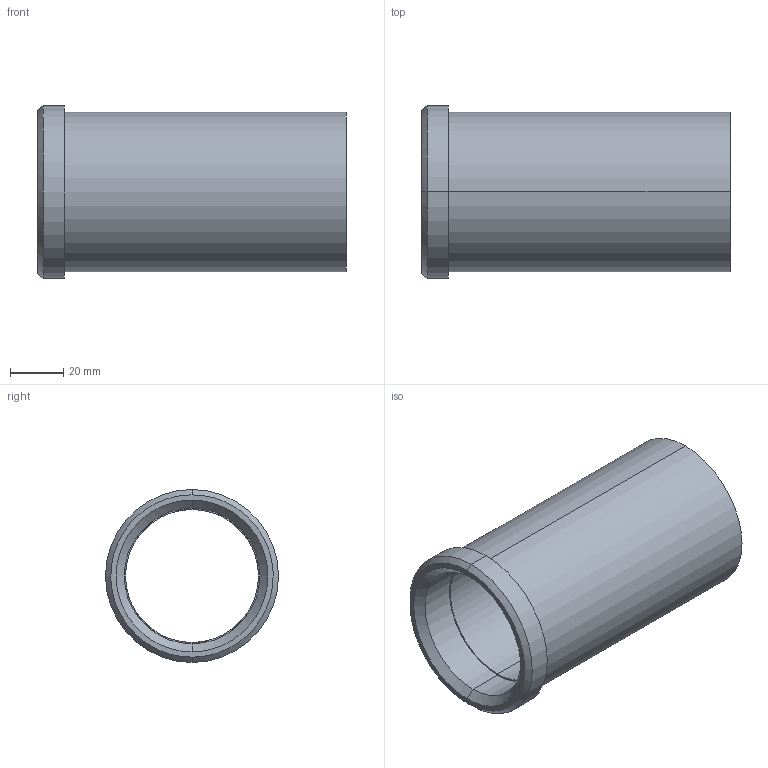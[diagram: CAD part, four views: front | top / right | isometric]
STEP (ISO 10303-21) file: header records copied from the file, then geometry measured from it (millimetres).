
FILE_DESCRIPTION(('CATIA V5 STEP Exchange'),'2;1');
FILE_NAME('C:\Users\Utente\Desktop\IO LAVORO\3D X SITO CF\X SITO\PLASTICA\353\353-50X116.stp','2021-05-14T13:21:04+00:00',('none'),('none'),'CATIA Version 5 Release 20 GA (IN-10)','CATIA V5 STEP AP203','none');
FILE_SCHEMA(('CONFIG_CONTROL_DESIGN'));
Length unit declared in the file: millimetre
Products named in the file (1): 353-50X116
Bounding box: 116 x 65 x 65 mm (x, y, z)
Volume: 102569.8 mm3; surface area: 42356.3 mm2
Topology: 1 solids, 1 shells, 18 faces, 58 edges, 44 vertices
Faces by surface type: cylinder 8, plane 4, cone 4, torus 2
Entity records: 840 total; most frequent: CARTESIAN_POINT 289, ORIENTED_EDGE 116, DIRECTION 82, EDGE_CURVE 58, AXIS2_PLACEMENT_3D 53, VERTEX_POINT 44, CIRCLE 34, EDGE_LOOP 22
